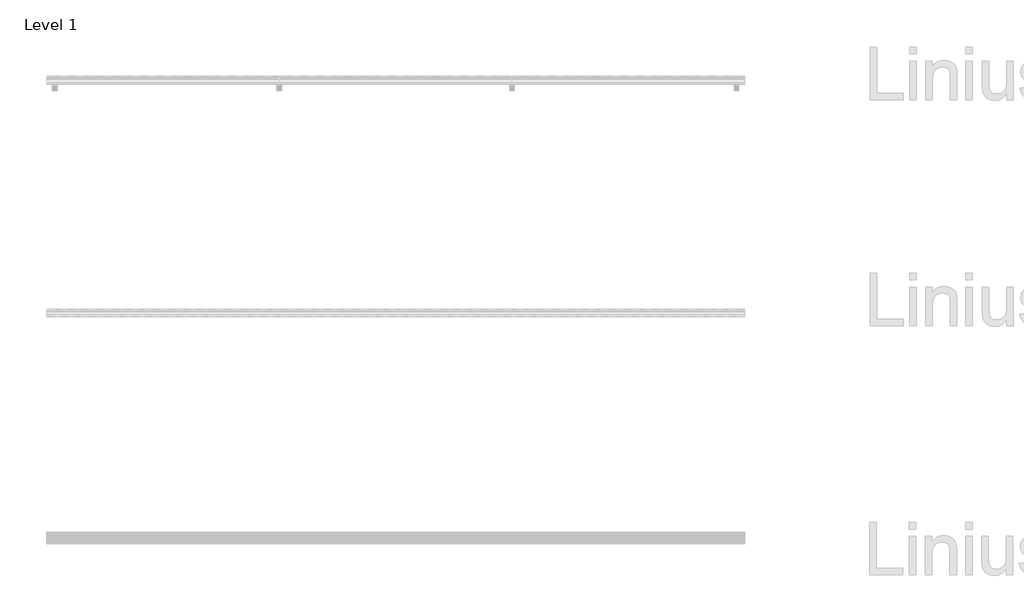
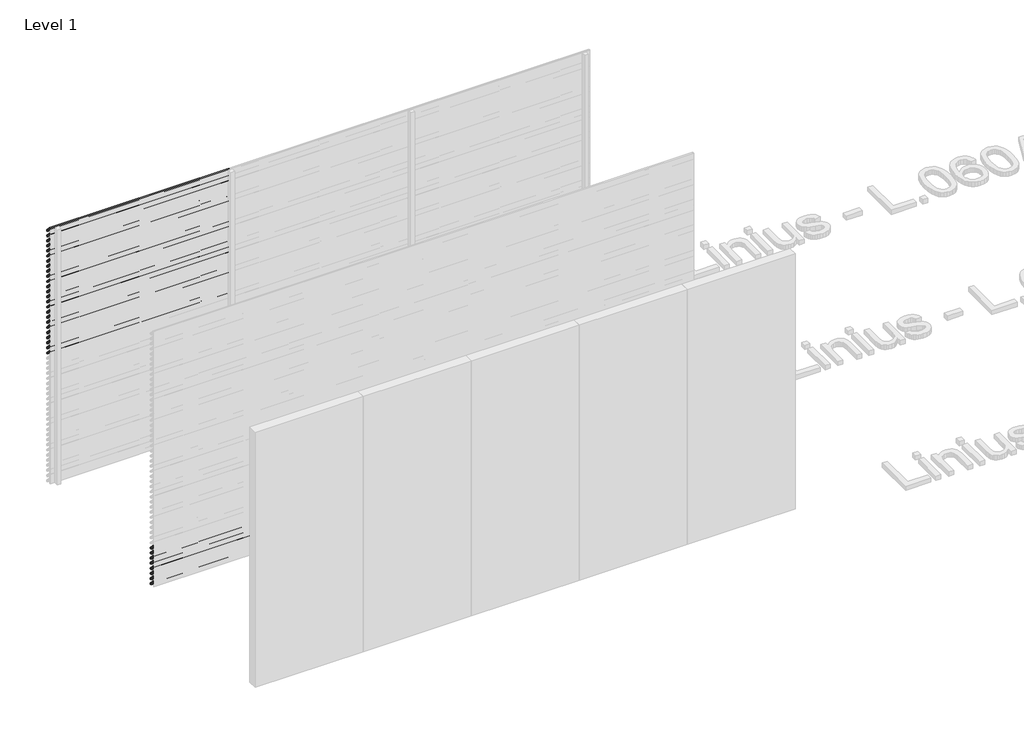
# One storey, part 91 of 153: 33 proxies.
"""IFC4 building model written with IfcOpenShell, lengths in millimetres."""

from ifc_helpers import new_model, si_unit, point, frame, frame_2d, origin, place, context, project, spatial, polyline, circle_curve, trimmed, segment, composite_curve, outline, extrude, element, save

model = new_model("IFC4")

# Units and contexts
model_context = context("Model", 3, world=origin())
ifc_project = project(units=[si_unit("LENGTHUNIT", "METRE", prefix="MILLI")], contexts=[model_context])

# Site, building, storey
site = spatial("IfcSite", under=ifc_project)
building = spatial("IfcBuilding", under=site)
storey = spatial("IfcBuildingStorey", under=building, Name="Level 1", Elevation=0.0)

# Proxies
placement = place(None, origin())
element("IfcBuildingElementProxy", 1, Name="Wall Sweeps", at=placement, inside=storey, context=model_context, shape_type="SweptSolid", body=[
    extrude(outline(composite_curve([segment(polyline([(36485.0540136, 3000.0), (36499.874191, 2998.7034025), (36549.0540136, 2945.0102749), (36549.0540136, 2933.6108187)]), True, "CONTINUOUS"), segment(trimmed(circle_curve(frame_2d((36545.7883652, 2933.897153)), 3.2781774), [point((36549.0540136, 2933.6108187))], [point((36546.4639442, 2930.6893438))], False, "CARTESIAN"), True, "CONTINUOUS"), segment(polyline([(36546.4639442, 2930.6893438), (36534.1895723, 2931.6282758), (36485.0540136, 2985.2730773), (36485.0540136, 3000.0)]), True, "CONTINUOUS")], self_intersect=False), holes=[composite_curve([segment(polyline([(36499.1621773, 2997.2599659), (36486.5540136, 2998.3630372), (36486.5540136, 2985.856213), (36534.8952036, 2933.0786805), (36546.3312542, 2932.2038762)]), True, "CONTINUOUS"), segment(trimmed(circle_curve(frame_2d((36545.7883652, 2933.897153)), 1.7781774), [point((36546.3312542, 2932.2038762))], [point((36547.5540136, 2933.6864389))], True, "CARTESIAN"), True, "CONTINUOUS"), segment(polyline([(36547.5540136, 2933.6864389), (36547.5540136, 2944.4271392), (36499.1621773, 2997.2599659)]), True, "CONTINUOUS")], self_intersect=False)]), frame((44966.6208097, 0.0, 0.0), z_axis=(1.0, 0.0, 0.0), x_axis=(0.0, 1.0, 0.0)), (0.0, 0.0, 1.0), 2000.0000001),
])
element("IfcBuildingElementProxy", 2, Name="Wall Sweeps", at=placement, inside=storey, context=model_context, shape_type="SweptSolid", body=[
    extrude(outline(composite_curve([segment(polyline([(36485.0540136, 2940.0), (36499.874191, 2938.7034025), (36549.0540136, 2885.0102749), (36549.0540136, 2873.6108187)]), True, "CONTINUOUS"), segment(trimmed(circle_curve(frame_2d((36545.7883652, 2873.897153)), 3.2781774), [point((36549.0540136, 2873.6108187))], [point((36546.4639442, 2870.6893438))], False, "CARTESIAN"), True, "CONTINUOUS"), segment(polyline([(36546.4639442, 2870.6893438), (36534.1895723, 2871.6282758), (36485.0540136, 2925.2730773), (36485.0540136, 2940.0)]), True, "CONTINUOUS")], self_intersect=False), holes=[composite_curve([segment(polyline([(36499.1621773, 2937.2599659), (36486.5540136, 2938.3630372), (36486.5540136, 2925.856213), (36534.8952036, 2873.0786805), (36546.3312542, 2872.2038762)]), True, "CONTINUOUS"), segment(trimmed(circle_curve(frame_2d((36545.7883652, 2873.897153)), 1.7781774), [point((36546.3312542, 2872.2038762))], [point((36547.5540136, 2873.6864389))], True, "CARTESIAN"), True, "CONTINUOUS"), segment(polyline([(36547.5540136, 2873.6864389), (36547.5540136, 2884.4271392), (36499.1621773, 2937.2599659)]), True, "CONTINUOUS")], self_intersect=False)]), frame((44966.6208097, 0.0, 0.0), z_axis=(1.0, 0.0, 0.0), x_axis=(0.0, 1.0, 0.0)), (0.0, 0.0, 1.0), 2000.0000001),
])
element("IfcBuildingElementProxy", 3, Name="Wall Sweeps", at=placement, inside=storey, context=model_context, shape_type="SweptSolid", body=[
    extrude(outline(composite_curve([segment(polyline([(36485.0540136, 2880.0), (36499.874191, 2878.7034025), (36549.0540136, 2825.0102749), (36549.0540136, 2813.6108187)]), True, "CONTINUOUS"), segment(trimmed(circle_curve(frame_2d((36545.7883652, 2813.897153)), 3.2781774), [point((36549.0540136, 2813.6108187))], [point((36546.4639442, 2810.6893438))], False, "CARTESIAN"), True, "CONTINUOUS"), segment(polyline([(36546.4639442, 2810.6893438), (36534.1895723, 2811.6282758), (36485.0540136, 2865.2730773), (36485.0540136, 2880.0)]), True, "CONTINUOUS")], self_intersect=False), holes=[composite_curve([segment(polyline([(36499.1621773, 2877.2599659), (36486.5540136, 2878.3630372), (36486.5540136, 2865.856213), (36534.8952036, 2813.0786805), (36546.3312542, 2812.2038762)]), True, "CONTINUOUS"), segment(trimmed(circle_curve(frame_2d((36545.7883652, 2813.897153)), 1.7781774), [point((36546.3312542, 2812.2038762))], [point((36547.5540136, 2813.6864389))], True, "CARTESIAN"), True, "CONTINUOUS"), segment(polyline([(36547.5540136, 2813.6864389), (36547.5540136, 2824.4271392), (36499.1621773, 2877.2599659)]), True, "CONTINUOUS")], self_intersect=False)]), frame((44966.6208097, 0.0, 0.0), z_axis=(1.0, 0.0, 0.0), x_axis=(0.0, 1.0, 0.0)), (0.0, 0.0, 1.0), 2000.0000001),
])
element("IfcBuildingElementProxy", 4, Name="Wall Sweeps", at=placement, inside=storey, context=model_context, shape_type="SweptSolid", body=[
    extrude(outline(composite_curve([segment(polyline([(36485.0540136, 2820.0), (36499.874191, 2818.7034025), (36549.0540136, 2765.0102749), (36549.0540136, 2753.6108187)]), True, "CONTINUOUS"), segment(trimmed(circle_curve(frame_2d((36545.7883652, 2753.897153)), 3.2781774), [point((36549.0540136, 2753.6108187))], [point((36546.4639442, 2750.6893438))], False, "CARTESIAN"), True, "CONTINUOUS"), segment(polyline([(36546.4639442, 2750.6893438), (36534.1895723, 2751.6282758), (36485.0540136, 2805.2730773), (36485.0540136, 2820.0)]), True, "CONTINUOUS")], self_intersect=False), holes=[composite_curve([segment(polyline([(36499.1621773, 2817.2599659), (36486.5540136, 2818.3630372), (36486.5540136, 2805.856213), (36534.8952036, 2753.0786805), (36546.3312542, 2752.2038762)]), True, "CONTINUOUS"), segment(trimmed(circle_curve(frame_2d((36545.7883652, 2753.897153)), 1.7781774), [point((36546.3312542, 2752.2038762))], [point((36547.5540136, 2753.6864389))], True, "CARTESIAN"), True, "CONTINUOUS"), segment(polyline([(36547.5540136, 2753.6864389), (36547.5540136, 2764.4271392), (36499.1621773, 2817.2599659)]), True, "CONTINUOUS")], self_intersect=False)]), frame((44966.6208097, 0.0, 0.0), z_axis=(1.0, 0.0, 0.0), x_axis=(0.0, 1.0, 0.0)), (0.0, 0.0, 1.0), 2000.0000001),
])
element("IfcBuildingElementProxy", 5, Name="Wall Sweeps", at=placement, inside=storey, context=model_context, shape_type="SweptSolid", body=[
    extrude(outline(composite_curve([segment(polyline([(36485.0540136, 2760.0), (36499.874191, 2758.7034025), (36549.0540136, 2705.0102749), (36549.0540136, 2693.6108187)]), True, "CONTINUOUS"), segment(trimmed(circle_curve(frame_2d((36545.7883652, 2693.897153)), 3.2781774), [point((36549.0540136, 2693.6108187))], [point((36546.4639442, 2690.6893438))], False, "CARTESIAN"), True, "CONTINUOUS"), segment(polyline([(36546.4639442, 2690.6893438), (36534.1895723, 2691.6282758), (36485.0540136, 2745.2730773), (36485.0540136, 2760.0)]), True, "CONTINUOUS")], self_intersect=False), holes=[composite_curve([segment(polyline([(36499.1621773, 2757.2599659), (36486.5540136, 2758.3630372), (36486.5540136, 2745.856213), (36534.8952036, 2693.0786805), (36546.3312542, 2692.2038762)]), True, "CONTINUOUS"), segment(trimmed(circle_curve(frame_2d((36545.7883652, 2693.897153)), 1.7781774), [point((36546.3312542, 2692.2038762))], [point((36547.5540136, 2693.6864389))], True, "CARTESIAN"), True, "CONTINUOUS"), segment(polyline([(36547.5540136, 2693.6864389), (36547.5540136, 2704.4271392), (36499.1621773, 2757.2599659)]), True, "CONTINUOUS")], self_intersect=False)]), frame((44966.6208097, 0.0, 0.0), z_axis=(1.0, 0.0, 0.0), x_axis=(0.0, 1.0, 0.0)), (0.0, 0.0, 1.0), 2000.0000001),
])
element("IfcBuildingElementProxy", 6, Name="Wall Sweeps", at=placement, inside=storey, context=model_context, shape_type="SweptSolid", body=[
    extrude(outline(composite_curve([segment(polyline([(36485.0540136, 2700.0), (36499.874191, 2698.7034025), (36549.0540136, 2645.0102749), (36549.0540136, 2633.6108187)]), True, "CONTINUOUS"), segment(trimmed(circle_curve(frame_2d((36545.7883652, 2633.897153)), 3.2781774), [point((36549.0540136, 2633.6108187))], [point((36546.4639442, 2630.6893438))], False, "CARTESIAN"), True, "CONTINUOUS"), segment(polyline([(36546.4639442, 2630.6893438), (36534.1895723, 2631.6282758), (36485.0540136, 2685.2730773), (36485.0540136, 2700.0)]), True, "CONTINUOUS")], self_intersect=False), holes=[composite_curve([segment(polyline([(36499.1621773, 2697.2599659), (36486.5540136, 2698.3630372), (36486.5540136, 2685.856213), (36534.8952036, 2633.0786805), (36546.3312542, 2632.2038762)]), True, "CONTINUOUS"), segment(trimmed(circle_curve(frame_2d((36545.7883652, 2633.897153)), 1.7781774), [point((36546.3312542, 2632.2038762))], [point((36547.5540136, 2633.6864389))], True, "CARTESIAN"), True, "CONTINUOUS"), segment(polyline([(36547.5540136, 2633.6864389), (36547.5540136, 2644.4271392), (36499.1621773, 2697.2599659)]), True, "CONTINUOUS")], self_intersect=False)]), frame((44966.6208097, 0.0, 0.0), z_axis=(1.0, 0.0, 0.0), x_axis=(0.0, 1.0, 0.0)), (0.0, 0.0, 1.0), 2000.0000001),
])
element("IfcBuildingElementProxy", 7, Name="Wall Sweeps", at=placement, inside=storey, context=model_context, shape_type="SweptSolid", body=[
    extrude(outline(composite_curve([segment(polyline([(36485.0540136, 2640.0), (36499.874191, 2638.7034025), (36549.0540136, 2585.0102749), (36549.0540136, 2573.6108187)]), True, "CONTINUOUS"), segment(trimmed(circle_curve(frame_2d((36545.7883652, 2573.897153)), 3.2781774), [point((36549.0540136, 2573.6108187))], [point((36546.4639442, 2570.6893438))], False, "CARTESIAN"), True, "CONTINUOUS"), segment(polyline([(36546.4639442, 2570.6893438), (36534.1895723, 2571.6282758), (36485.0540136, 2625.2730773), (36485.0540136, 2640.0)]), True, "CONTINUOUS")], self_intersect=False), holes=[composite_curve([segment(polyline([(36499.1621773, 2637.2599659), (36486.5540136, 2638.3630372), (36486.5540136, 2625.856213), (36534.8952036, 2573.0786805), (36546.3312542, 2572.2038762)]), True, "CONTINUOUS"), segment(trimmed(circle_curve(frame_2d((36545.7883652, 2573.897153)), 1.7781774), [point((36546.3312542, 2572.2038762))], [point((36547.5540136, 2573.6864389))], True, "CARTESIAN"), True, "CONTINUOUS"), segment(polyline([(36547.5540136, 2573.6864389), (36547.5540136, 2584.4271392), (36499.1621773, 2637.2599659)]), True, "CONTINUOUS")], self_intersect=False)]), frame((44966.6208097, 0.0, 0.0), z_axis=(1.0, 0.0, 0.0), x_axis=(0.0, 1.0, 0.0)), (0.0, 0.0, 1.0), 2000.0000001),
])
element("IfcBuildingElementProxy", 8, Name="Wall Sweeps", at=placement, inside=storey, context=model_context, shape_type="SweptSolid", body=[
    extrude(outline(composite_curve([segment(polyline([(36485.0540136, 2580.0), (36499.874191, 2578.7034025), (36549.0540136, 2525.0102749), (36549.0540136, 2513.6108187)]), True, "CONTINUOUS"), segment(trimmed(circle_curve(frame_2d((36545.7883652, 2513.897153)), 3.2781774), [point((36549.0540136, 2513.6108187))], [point((36546.4639442, 2510.6893438))], False, "CARTESIAN"), True, "CONTINUOUS"), segment(polyline([(36546.4639442, 2510.6893438), (36534.1895723, 2511.6282758), (36485.0540136, 2565.2730773), (36485.0540136, 2580.0)]), True, "CONTINUOUS")], self_intersect=False), holes=[composite_curve([segment(polyline([(36499.1621773, 2577.2599659), (36486.5540136, 2578.3630372), (36486.5540136, 2565.856213), (36534.8952036, 2513.0786805), (36546.3312542, 2512.2038762)]), True, "CONTINUOUS"), segment(trimmed(circle_curve(frame_2d((36545.7883652, 2513.897153)), 1.7781774), [point((36546.3312542, 2512.2038762))], [point((36547.5540136, 2513.6864389))], True, "CARTESIAN"), True, "CONTINUOUS"), segment(polyline([(36547.5540136, 2513.6864389), (36547.5540136, 2524.4271392), (36499.1621773, 2577.2599659)]), True, "CONTINUOUS")], self_intersect=False)]), frame((44966.6208097, 0.0, 0.0), z_axis=(1.0, 0.0, 0.0), x_axis=(0.0, 1.0, 0.0)), (0.0, 0.0, 1.0), 2000.0000001),
])
element("IfcBuildingElementProxy", 9, Name="Wall Sweeps", at=placement, inside=storey, context=model_context, shape_type="SweptSolid", body=[
    extrude(outline(composite_curve([segment(polyline([(36485.0540136, 2520.0), (36499.874191, 2518.7034025), (36549.0540136, 2465.0102749), (36549.0540136, 2453.6108187)]), True, "CONTINUOUS"), segment(trimmed(circle_curve(frame_2d((36545.7883652, 2453.897153)), 3.2781774), [point((36549.0540136, 2453.6108187))], [point((36546.4639442, 2450.6893438))], False, "CARTESIAN"), True, "CONTINUOUS"), segment(polyline([(36546.4639442, 2450.6893438), (36534.1895723, 2451.6282758), (36485.0540136, 2505.2730773), (36485.0540136, 2520.0)]), True, "CONTINUOUS")], self_intersect=False), holes=[composite_curve([segment(polyline([(36499.1621773, 2517.2599659), (36486.5540136, 2518.3630372), (36486.5540136, 2505.856213), (36534.8952036, 2453.0786805), (36546.3312542, 2452.2038762)]), True, "CONTINUOUS"), segment(trimmed(circle_curve(frame_2d((36545.7883652, 2453.897153)), 1.7781774), [point((36546.3312542, 2452.2038762))], [point((36547.5540136, 2453.6864389))], True, "CARTESIAN"), True, "CONTINUOUS"), segment(polyline([(36547.5540136, 2453.6864389), (36547.5540136, 2464.4271392), (36499.1621773, 2517.2599659)]), True, "CONTINUOUS")], self_intersect=False)]), frame((44966.6208097, 0.0, 0.0), z_axis=(1.0, 0.0, 0.0), x_axis=(0.0, 1.0, 0.0)), (0.0, 0.0, 1.0), 2000.0000001),
])
element("IfcBuildingElementProxy", 10, Name="Wall Sweeps", at=placement, inside=storey, context=model_context, shape_type="SweptSolid", body=[
    extrude(outline(composite_curve([segment(polyline([(36485.0540136, 2460.0), (36499.874191, 2458.7034025), (36549.0540136, 2405.0102749), (36549.0540136, 2393.6108187)]), True, "CONTINUOUS"), segment(trimmed(circle_curve(frame_2d((36545.7883652, 2393.897153)), 3.2781774), [point((36549.0540136, 2393.6108187))], [point((36546.4639442, 2390.6893438))], False, "CARTESIAN"), True, "CONTINUOUS"), segment(polyline([(36546.4639442, 2390.6893438), (36534.1895723, 2391.6282758), (36485.0540136, 2445.2730773), (36485.0540136, 2460.0)]), True, "CONTINUOUS")], self_intersect=False), holes=[composite_curve([segment(polyline([(36499.1621773, 2457.2599659), (36486.5540136, 2458.3630372), (36486.5540136, 2445.856213), (36534.8952036, 2393.0786805), (36546.3312542, 2392.2038762)]), True, "CONTINUOUS"), segment(trimmed(circle_curve(frame_2d((36545.7883652, 2393.897153)), 1.7781774), [point((36546.3312542, 2392.2038762))], [point((36547.5540136, 2393.6864389))], True, "CARTESIAN"), True, "CONTINUOUS"), segment(polyline([(36547.5540136, 2393.6864389), (36547.5540136, 2404.4271392), (36499.1621773, 2457.2599659)]), True, "CONTINUOUS")], self_intersect=False)]), frame((44966.6208097, 0.0, 0.0), z_axis=(1.0, 0.0, 0.0), x_axis=(0.0, 1.0, 0.0)), (0.0, 0.0, 1.0), 2000.0000001),
])
element("IfcBuildingElementProxy", 11, Name="Wall Sweeps", at=placement, inside=storey, context=model_context, shape_type="SweptSolid", body=[
    extrude(outline(composite_curve([segment(polyline([(36485.0540136, 2400.0), (36499.874191, 2398.7034025), (36549.0540136, 2345.0102749), (36549.0540136, 2333.6108187)]), True, "CONTINUOUS"), segment(trimmed(circle_curve(frame_2d((36545.7883652, 2333.897153)), 3.2781774), [point((36549.0540136, 2333.6108187))], [point((36546.4639442, 2330.6893438))], False, "CARTESIAN"), True, "CONTINUOUS"), segment(polyline([(36546.4639442, 2330.6893438), (36534.1895723, 2331.6282758), (36485.0540136, 2385.2730773), (36485.0540136, 2400.0)]), True, "CONTINUOUS")], self_intersect=False), holes=[composite_curve([segment(polyline([(36499.1621773, 2397.2599659), (36486.5540136, 2398.3630372), (36486.5540136, 2385.856213), (36534.8952036, 2333.0786805), (36546.3312542, 2332.2038762)]), True, "CONTINUOUS"), segment(trimmed(circle_curve(frame_2d((36545.7883652, 2333.897153)), 1.7781774), [point((36546.3312542, 2332.2038762))], [point((36547.5540136, 2333.6864389))], True, "CARTESIAN"), True, "CONTINUOUS"), segment(polyline([(36547.5540136, 2333.6864389), (36547.5540136, 2344.4271392), (36499.1621773, 2397.2599659)]), True, "CONTINUOUS")], self_intersect=False)]), frame((44966.6208097, 0.0, 0.0), z_axis=(1.0, 0.0, 0.0), x_axis=(0.0, 1.0, 0.0)), (0.0, 0.0, 1.0), 2000.0000001),
])
element("IfcBuildingElementProxy", 12, Name="Wall Sweeps", at=placement, inside=storey, context=model_context, shape_type="SweptSolid", body=[
    extrude(outline(composite_curve([segment(polyline([(36485.0540136, 2340.0), (36499.874191, 2338.7034025), (36549.0540136, 2285.0102749), (36549.0540136, 2273.6108187)]), True, "CONTINUOUS"), segment(trimmed(circle_curve(frame_2d((36545.7883652, 2273.897153)), 3.2781774), [point((36549.0540136, 2273.6108187))], [point((36546.4639442, 2270.6893438))], False, "CARTESIAN"), True, "CONTINUOUS"), segment(polyline([(36546.4639442, 2270.6893438), (36534.1895723, 2271.6282758), (36485.0540136, 2325.2730773), (36485.0540136, 2340.0)]), True, "CONTINUOUS")], self_intersect=False), holes=[composite_curve([segment(polyline([(36499.1621773, 2337.2599659), (36486.5540136, 2338.3630372), (36486.5540136, 2325.856213), (36534.8952036, 2273.0786805), (36546.3312542, 2272.2038762)]), True, "CONTINUOUS"), segment(trimmed(circle_curve(frame_2d((36545.7883652, 2273.897153)), 1.7781774), [point((36546.3312542, 2272.2038762))], [point((36547.5540136, 2273.6864389))], True, "CARTESIAN"), True, "CONTINUOUS"), segment(polyline([(36547.5540136, 2273.6864389), (36547.5540136, 2284.4271392), (36499.1621773, 2337.2599659)]), True, "CONTINUOUS")], self_intersect=False)]), frame((44966.6208097, 0.0, 0.0), z_axis=(1.0, 0.0, 0.0), x_axis=(0.0, 1.0, 0.0)), (0.0, 0.0, 1.0), 2000.0000001),
])
element("IfcBuildingElementProxy", 13, Name="Wall Sweeps", at=placement, inside=storey, context=model_context, shape_type="SweptSolid", body=[
    extrude(outline(composite_curve([segment(polyline([(36485.0540136, 2280.0), (36499.874191, 2278.7034025), (36549.0540136, 2225.0102749), (36549.0540136, 2213.6108187)]), True, "CONTINUOUS"), segment(trimmed(circle_curve(frame_2d((36545.7883652, 2213.897153)), 3.2781774), [point((36549.0540136, 2213.6108187))], [point((36546.4639442, 2210.6893438))], False, "CARTESIAN"), True, "CONTINUOUS"), segment(polyline([(36546.4639442, 2210.6893438), (36534.1895723, 2211.6282758), (36485.0540136, 2265.2730773), (36485.0540136, 2280.0)]), True, "CONTINUOUS")], self_intersect=False), holes=[composite_curve([segment(polyline([(36499.1621773, 2277.2599659), (36486.5540136, 2278.3630372), (36486.5540136, 2265.856213), (36534.8952036, 2213.0786805), (36546.3312542, 2212.2038762)]), True, "CONTINUOUS"), segment(trimmed(circle_curve(frame_2d((36545.7883652, 2213.897153)), 1.7781774), [point((36546.3312542, 2212.2038762))], [point((36547.5540136, 2213.6864389))], True, "CARTESIAN"), True, "CONTINUOUS"), segment(polyline([(36547.5540136, 2213.6864389), (36547.5540136, 2224.4271392), (36499.1621773, 2277.2599659)]), True, "CONTINUOUS")], self_intersect=False)]), frame((44966.6208097, 0.0, 0.0), z_axis=(1.0, 0.0, 0.0), x_axis=(0.0, 1.0, 0.0)), (0.0, 0.0, 1.0), 2000.0000001),
])
element("IfcBuildingElementProxy", 14, Name="Wall Sweeps", at=placement, inside=storey, context=model_context, shape_type="SweptSolid", body=[
    extrude(outline(composite_curve([segment(polyline([(36485.0540136, 2220.0), (36499.874191, 2218.7034025), (36549.0540136, 2165.0102749), (36549.0540136, 2153.6108187)]), True, "CONTINUOUS"), segment(trimmed(circle_curve(frame_2d((36545.7883652, 2153.897153)), 3.2781774), [point((36549.0540136, 2153.6108187))], [point((36546.4639442, 2150.6893438))], False, "CARTESIAN"), True, "CONTINUOUS"), segment(polyline([(36546.4639442, 2150.6893438), (36534.1895723, 2151.6282758), (36485.0540136, 2205.2730773), (36485.0540136, 2220.0)]), True, "CONTINUOUS")], self_intersect=False), holes=[composite_curve([segment(polyline([(36499.1621773, 2217.2599659), (36486.5540136, 2218.3630372), (36486.5540136, 2205.856213), (36534.8952036, 2153.0786805), (36546.3312542, 2152.2038762)]), True, "CONTINUOUS"), segment(trimmed(circle_curve(frame_2d((36545.7883652, 2153.897153)), 1.7781774), [point((36546.3312542, 2152.2038762))], [point((36547.5540136, 2153.6864389))], True, "CARTESIAN"), True, "CONTINUOUS"), segment(polyline([(36547.5540136, 2153.6864389), (36547.5540136, 2164.4271392), (36499.1621773, 2217.2599659)]), True, "CONTINUOUS")], self_intersect=False)]), frame((44966.6208097, 0.0, 0.0), z_axis=(1.0, 0.0, 0.0), x_axis=(0.0, 1.0, 0.0)), (0.0, 0.0, 1.0), 2000.0000001),
])
element("IfcBuildingElementProxy", 15, Name="Wall Sweeps", at=placement, inside=storey, context=model_context, shape_type="SweptSolid", body=[
    extrude(outline(composite_curve([segment(polyline([(36485.0540136, 2160.0), (36499.874191, 2158.7034025), (36549.0540136, 2105.0102749), (36549.0540136, 2093.6108187)]), True, "CONTINUOUS"), segment(trimmed(circle_curve(frame_2d((36545.7883652, 2093.897153)), 3.2781774), [point((36549.0540136, 2093.6108187))], [point((36546.4639442, 2090.6893438))], False, "CARTESIAN"), True, "CONTINUOUS"), segment(polyline([(36546.4639442, 2090.6893438), (36534.1895723, 2091.6282758), (36485.0540136, 2145.2730773), (36485.0540136, 2160.0)]), True, "CONTINUOUS")], self_intersect=False), holes=[composite_curve([segment(polyline([(36499.1621773, 2157.2599659), (36486.5540136, 2158.3630372), (36486.5540136, 2145.856213), (36534.8952036, 2093.0786805), (36546.3312542, 2092.2038762)]), True, "CONTINUOUS"), segment(trimmed(circle_curve(frame_2d((36545.7883652, 2093.897153)), 1.7781774), [point((36546.3312542, 2092.2038762))], [point((36547.5540136, 2093.6864389))], True, "CARTESIAN"), True, "CONTINUOUS"), segment(polyline([(36547.5540136, 2093.6864389), (36547.5540136, 2104.4271392), (36499.1621773, 2157.2599659)]), True, "CONTINUOUS")], self_intersect=False)]), frame((44966.6208097, 0.0, 0.0), z_axis=(1.0, 0.0, 0.0), x_axis=(0.0, 1.0, 0.0)), (0.0, 0.0, 1.0), 2000.0000001),
])
element("IfcBuildingElementProxy", 16, Name="Wall Sweeps", at=placement, inside=storey, context=model_context, shape_type="SweptSolid", body=[
    extrude(outline(composite_curve([segment(polyline([(36485.0540136, 2100.0), (36499.874191, 2098.7034025), (36549.0540136, 2045.0102749), (36549.0540136, 2033.6108187)]), True, "CONTINUOUS"), segment(trimmed(circle_curve(frame_2d((36545.7883652, 2033.897153)), 3.2781774), [point((36549.0540136, 2033.6108187))], [point((36546.4639442, 2030.6893438))], False, "CARTESIAN"), True, "CONTINUOUS"), segment(polyline([(36546.4639442, 2030.6893438), (36534.1895723, 2031.6282758), (36485.0540136, 2085.2730773), (36485.0540136, 2100.0)]), True, "CONTINUOUS")], self_intersect=False), holes=[composite_curve([segment(polyline([(36499.1621773, 2097.2599659), (36486.5540136, 2098.3630372), (36486.5540136, 2085.856213), (36534.8952036, 2033.0786805), (36546.3312542, 2032.2038762)]), True, "CONTINUOUS"), segment(trimmed(circle_curve(frame_2d((36545.7883652, 2033.897153)), 1.7781774), [point((36546.3312542, 2032.2038762))], [point((36547.5540136, 2033.6864389))], True, "CARTESIAN"), True, "CONTINUOUS"), segment(polyline([(36547.5540136, 2033.6864389), (36547.5540136, 2044.4271392), (36499.1621773, 2097.2599659)]), True, "CONTINUOUS")], self_intersect=False)]), frame((44966.6208097, 0.0, 0.0), z_axis=(1.0, 0.0, 0.0), x_axis=(0.0, 1.0, 0.0)), (0.0, 0.0, 1.0), 2000.0000001),
])
element("IfcBuildingElementProxy", 17, Name="Wall Sweeps", at=placement, inside=storey, context=model_context, shape_type="SweptSolid", body=[
    extrude(outline(composite_curve([segment(polyline([(36485.0540136, 2040.0), (36499.874191, 2038.7034025), (36549.0540136, 1985.0102749), (36549.0540136, 1973.6108187)]), True, "CONTINUOUS"), segment(trimmed(circle_curve(frame_2d((36545.7883652, 1973.897153)), 3.2781774), [point((36549.0540136, 1973.6108187))], [point((36546.4639442, 1970.6893438))], False, "CARTESIAN"), True, "CONTINUOUS"), segment(polyline([(36546.4639442, 1970.6893438), (36534.1895723, 1971.6282758), (36485.0540136, 2025.2730773), (36485.0540136, 2040.0)]), True, "CONTINUOUS")], self_intersect=False), holes=[composite_curve([segment(polyline([(36499.1621773, 2037.2599659), (36486.5540136, 2038.3630372), (36486.5540136, 2025.856213), (36534.8952036, 1973.0786805), (36546.3312542, 1972.2038762)]), True, "CONTINUOUS"), segment(trimmed(circle_curve(frame_2d((36545.7883652, 1973.897153)), 1.7781774), [point((36546.3312542, 1972.2038762))], [point((36547.5540136, 1973.6864389))], True, "CARTESIAN"), True, "CONTINUOUS"), segment(polyline([(36547.5540136, 1973.6864389), (36547.5540136, 1984.4271392), (36499.1621773, 2037.2599659)]), True, "CONTINUOUS")], self_intersect=False)]), frame((44966.6208097, 0.0, 0.0), z_axis=(1.0, 0.0, 0.0), x_axis=(0.0, 1.0, 0.0)), (0.0, 0.0, 1.0), 2000.0000001),
])
element("IfcBuildingElementProxy", 18, Name="Wall Sweeps", at=placement, inside=storey, context=model_context, shape_type="SweptSolid", body=[
    extrude(outline(composite_curve([segment(polyline([(36485.0540136, 1980.0), (36499.874191, 1978.7034025), (36549.0540136, 1925.0102749), (36549.0540136, 1913.6108187)]), True, "CONTINUOUS"), segment(trimmed(circle_curve(frame_2d((36545.7883652, 1913.897153)), 3.2781774), [point((36549.0540136, 1913.6108187))], [point((36546.4639442, 1910.6893438))], False, "CARTESIAN"), True, "CONTINUOUS"), segment(polyline([(36546.4639442, 1910.6893438), (36534.1895723, 1911.6282758), (36485.0540136, 1965.2730773), (36485.0540136, 1980.0)]), True, "CONTINUOUS")], self_intersect=False), holes=[composite_curve([segment(polyline([(36499.1621773, 1977.2599659), (36486.5540136, 1978.3630372), (36486.5540136, 1965.856213), (36534.8952036, 1913.0786805), (36546.3312542, 1912.2038762)]), True, "CONTINUOUS"), segment(trimmed(circle_curve(frame_2d((36545.7883652, 1913.897153)), 1.7781774), [point((36546.3312542, 1912.2038762))], [point((36547.5540136, 1913.6864389))], True, "CARTESIAN"), True, "CONTINUOUS"), segment(polyline([(36547.5540136, 1913.6864389), (36547.5540136, 1924.4271392), (36499.1621773, 1977.2599659)]), True, "CONTINUOUS")], self_intersect=False)]), frame((44966.6208097, 0.0, 0.0), z_axis=(1.0, 0.0, 0.0), x_axis=(0.0, 1.0, 0.0)), (0.0, 0.0, 1.0), 2000.0000001),
])
element("IfcBuildingElementProxy", 19, Name="Wall Sweeps", at=placement, inside=storey, context=model_context, shape_type="SweptSolid", body=[
    extrude(outline(composite_curve([segment(polyline([(36485.0540136, 1920.0), (36499.874191, 1918.7034025), (36549.0540136, 1865.0102749), (36549.0540136, 1853.6108187)]), True, "CONTINUOUS"), segment(trimmed(circle_curve(frame_2d((36545.7883652, 1853.897153)), 3.2781774), [point((36549.0540136, 1853.6108187))], [point((36546.4639442, 1850.6893438))], False, "CARTESIAN"), True, "CONTINUOUS"), segment(polyline([(36546.4639442, 1850.6893438), (36534.1895723, 1851.6282758), (36485.0540136, 1905.2730773), (36485.0540136, 1920.0)]), True, "CONTINUOUS")], self_intersect=False), holes=[composite_curve([segment(polyline([(36499.1621773, 1917.2599659), (36486.5540136, 1918.3630372), (36486.5540136, 1905.856213), (36534.8952036, 1853.0786805), (36546.3312542, 1852.2038762)]), True, "CONTINUOUS"), segment(trimmed(circle_curve(frame_2d((36545.7883652, 1853.897153)), 1.7781774), [point((36546.3312542, 1852.2038762))], [point((36547.5540136, 1853.6864389))], True, "CARTESIAN"), True, "CONTINUOUS"), segment(polyline([(36547.5540136, 1853.6864389), (36547.5540136, 1864.4271392), (36499.1621773, 1917.2599659)]), True, "CONTINUOUS")], self_intersect=False)]), frame((44966.6208097, 0.0, 0.0), z_axis=(1.0, 0.0, 0.0), x_axis=(0.0, 1.0, 0.0)), (0.0, 0.0, 1.0), 2000.0000001),
])
element("IfcBuildingElementProxy", 20, Name="Wall Sweeps", at=placement, inside=storey, context=model_context, shape_type="SweptSolid", body=[
    extrude(outline(composite_curve([segment(polyline([(36485.0540136, 1860.0), (36499.874191, 1858.7034025), (36549.0540136, 1805.0102749), (36549.0540136, 1793.6108187)]), True, "CONTINUOUS"), segment(trimmed(circle_curve(frame_2d((36545.7883652, 1793.897153)), 3.2781774), [point((36549.0540136, 1793.6108187))], [point((36546.4639442, 1790.6893438))], False, "CARTESIAN"), True, "CONTINUOUS"), segment(polyline([(36546.4639442, 1790.6893438), (36534.1895723, 1791.6282758), (36485.0540136, 1845.2730773), (36485.0540136, 1860.0)]), True, "CONTINUOUS")], self_intersect=False), holes=[composite_curve([segment(polyline([(36499.1621773, 1857.2599659), (36486.5540136, 1858.3630372), (36486.5540136, 1845.856213), (36534.8952036, 1793.0786805), (36546.3312542, 1792.2038762)]), True, "CONTINUOUS"), segment(trimmed(circle_curve(frame_2d((36545.7883652, 1793.897153)), 1.7781774), [point((36546.3312542, 1792.2038762))], [point((36547.5540136, 1793.6864389))], True, "CARTESIAN"), True, "CONTINUOUS"), segment(polyline([(36547.5540136, 1793.6864389), (36547.5540136, 1804.4271392), (36499.1621773, 1857.2599659)]), True, "CONTINUOUS")], self_intersect=False)]), frame((44966.6208097, 0.0, 0.0), z_axis=(1.0, 0.0, 0.0), x_axis=(0.0, 1.0, 0.0)), (0.0, 0.0, 1.0), 2000.0000001),
])
element("IfcBuildingElementProxy", 21, Name="Wall Sweeps", at=placement, inside=storey, context=model_context, shape_type="SweptSolid", body=[
    extrude(outline(composite_curve([segment(polyline([(36485.0540136, 1800.0), (36499.874191, 1798.7034025), (36549.0540136, 1745.0102749), (36549.0540136, 1733.6108187)]), True, "CONTINUOUS"), segment(trimmed(circle_curve(frame_2d((36545.7883652, 1733.897153)), 3.2781774), [point((36549.0540136, 1733.6108187))], [point((36546.4639442, 1730.6893438))], False, "CARTESIAN"), True, "CONTINUOUS"), segment(polyline([(36546.4639442, 1730.6893438), (36534.1895723, 1731.6282758), (36485.0540136, 1785.2730773), (36485.0540136, 1800.0)]), True, "CONTINUOUS")], self_intersect=False), holes=[composite_curve([segment(polyline([(36499.1621773, 1797.2599659), (36486.5540136, 1798.3630372), (36486.5540136, 1785.856213), (36534.8952036, 1733.0786805), (36546.3312542, 1732.2038762)]), True, "CONTINUOUS"), segment(trimmed(circle_curve(frame_2d((36545.7883652, 1733.897153)), 1.7781774), [point((36546.3312542, 1732.2038762))], [point((36547.5540136, 1733.6864389))], True, "CARTESIAN"), True, "CONTINUOUS"), segment(polyline([(36547.5540136, 1733.6864389), (36547.5540136, 1744.4271392), (36499.1621773, 1797.2599659)]), True, "CONTINUOUS")], self_intersect=False)]), frame((44966.6208097, 0.0, 0.0), z_axis=(1.0, 0.0, 0.0), x_axis=(0.0, 1.0, 0.0)), (0.0, 0.0, 1.0), 2000.0000001),
])
element("IfcBuildingElementProxy", 22, Name="Wall Sweeps", at=placement, inside=storey, context=model_context, shape_type="SweptSolid", body=[
    extrude(outline(composite_curve([segment(polyline([(36485.0540136, 1740.0), (36499.874191, 1738.7034025), (36549.0540136, 1685.0102749), (36549.0540136, 1673.6108187)]), True, "CONTINUOUS"), segment(trimmed(circle_curve(frame_2d((36545.7883652, 1673.897153)), 3.2781774), [point((36549.0540136, 1673.6108187))], [point((36546.4639442, 1670.6893438))], False, "CARTESIAN"), True, "CONTINUOUS"), segment(polyline([(36546.4639442, 1670.6893438), (36534.1895723, 1671.6282758), (36485.0540136, 1725.2730773), (36485.0540136, 1740.0)]), True, "CONTINUOUS")], self_intersect=False), holes=[composite_curve([segment(polyline([(36499.1621773, 1737.2599659), (36486.5540136, 1738.3630372), (36486.5540136, 1725.856213), (36534.8952036, 1673.0786805), (36546.3312542, 1672.2038762)]), True, "CONTINUOUS"), segment(trimmed(circle_curve(frame_2d((36545.7883652, 1673.897153)), 1.7781774), [point((36546.3312542, 1672.2038762))], [point((36547.5540136, 1673.6864389))], True, "CARTESIAN"), True, "CONTINUOUS"), segment(polyline([(36547.5540136, 1673.6864389), (36547.5540136, 1684.4271392), (36499.1621773, 1737.2599659)]), True, "CONTINUOUS")], self_intersect=False)]), frame((44966.6208097, 0.0, 0.0), z_axis=(1.0, 0.0, 0.0), x_axis=(0.0, 1.0, 0.0)), (0.0, 0.0, 1.0), 2000.0000001),
])
element("IfcBuildingElementProxy", 23, Name="Wall Sweeps", at=placement, inside=storey, context=model_context, shape_type="SweptSolid", body=[
    extrude(outline(composite_curve([segment(polyline([(36485.0540136, 1680.0), (36499.874191, 1678.7034025), (36549.0540136, 1625.0102749), (36549.0540136, 1613.6108187)]), True, "CONTINUOUS"), segment(trimmed(circle_curve(frame_2d((36545.7883652, 1613.897153)), 3.2781774), [point((36549.0540136, 1613.6108187))], [point((36546.4639442, 1610.6893438))], False, "CARTESIAN"), True, "CONTINUOUS"), segment(polyline([(36546.4639442, 1610.6893438), (36534.1895723, 1611.6282758), (36485.0540136, 1665.2730773), (36485.0540136, 1680.0)]), True, "CONTINUOUS")], self_intersect=False), holes=[composite_curve([segment(polyline([(36499.1621773, 1677.2599659), (36486.5540136, 1678.3630372), (36486.5540136, 1665.856213), (36534.8952036, 1613.0786805), (36546.3312542, 1612.2038762)]), True, "CONTINUOUS"), segment(trimmed(circle_curve(frame_2d((36545.7883652, 1613.897153)), 1.7781774), [point((36546.3312542, 1612.2038762))], [point((36547.5540136, 1613.6864389))], True, "CARTESIAN"), True, "CONTINUOUS"), segment(polyline([(36547.5540136, 1613.6864389), (36547.5540136, 1624.4271392), (36499.1621773, 1677.2599659)]), True, "CONTINUOUS")], self_intersect=False)]), frame((44966.6208097, 0.0, 0.0), z_axis=(1.0, 0.0, 0.0), x_axis=(0.0, 1.0, 0.0)), (0.0, 0.0, 1.0), 2000.0000001),
])
element("IfcBuildingElementProxy", 24, Name="Wall Sweeps", at=placement, inside=storey, context=model_context, shape_type="SweptSolid", body=[
    extrude(outline(composite_curve([segment(polyline([(36485.0540136, 1620.0), (36499.874191, 1618.7034025), (36549.0540136, 1565.0102749), (36549.0540136, 1553.6108187)]), True, "CONTINUOUS"), segment(trimmed(circle_curve(frame_2d((36545.7883652, 1553.897153)), 3.2781774), [point((36549.0540136, 1553.6108187))], [point((36546.4639442, 1550.6893438))], False, "CARTESIAN"), True, "CONTINUOUS"), segment(polyline([(36546.4639442, 1550.6893438), (36534.1895723, 1551.6282758), (36485.0540136, 1605.2730773), (36485.0540136, 1620.0)]), True, "CONTINUOUS")], self_intersect=False), holes=[composite_curve([segment(polyline([(36499.1621773, 1617.2599659), (36486.5540136, 1618.3630372), (36486.5540136, 1605.856213), (36534.8952036, 1553.0786805), (36546.3312542, 1552.2038762)]), True, "CONTINUOUS"), segment(trimmed(circle_curve(frame_2d((36545.7883652, 1553.897153)), 1.7781774), [point((36546.3312542, 1552.2038762))], [point((36547.5540136, 1553.6864389))], True, "CARTESIAN"), True, "CONTINUOUS"), segment(polyline([(36547.5540136, 1553.6864389), (36547.5540136, 1564.4271392), (36499.1621773, 1617.2599659)]), True, "CONTINUOUS")], self_intersect=False)]), frame((44966.6208097, 0.0, 0.0), z_axis=(1.0, 0.0, 0.0), x_axis=(0.0, 1.0, 0.0)), (0.0, 0.0, 1.0), 2000.0000001),
])
element("IfcBuildingElementProxy", 25, Name="Wall Sweeps", at=placement, inside=storey, context=model_context, shape_type="SweptSolid", body=[
    extrude(outline(composite_curve([segment(polyline([(36485.0540136, 1560.0), (36499.874191, 1558.7034025), (36549.0540136, 1505.0102749), (36549.0540136, 1493.6108187)]), True, "CONTINUOUS"), segment(trimmed(circle_curve(frame_2d((36545.7883652, 1493.897153)), 3.2781774), [point((36549.0540136, 1493.6108187))], [point((36546.4639442, 1490.6893438))], False, "CARTESIAN"), True, "CONTINUOUS"), segment(polyline([(36546.4639442, 1490.6893438), (36534.1895723, 1491.6282758), (36485.0540136, 1545.2730773), (36485.0540136, 1560.0)]), True, "CONTINUOUS")], self_intersect=False), holes=[composite_curve([segment(polyline([(36499.1621773, 1557.2599659), (36486.5540136, 1558.3630372), (36486.5540136, 1545.856213), (36534.8952036, 1493.0786805), (36546.3312542, 1492.2038762)]), True, "CONTINUOUS"), segment(trimmed(circle_curve(frame_2d((36545.7883652, 1493.897153)), 1.7781774), [point((36546.3312542, 1492.2038762))], [point((36547.5540136, 1493.6864389))], True, "CARTESIAN"), True, "CONTINUOUS"), segment(polyline([(36547.5540136, 1493.6864389), (36547.5540136, 1504.4271392), (36499.1621773, 1557.2599659)]), True, "CONTINUOUS")], self_intersect=False)]), frame((44966.6208097, 0.0, 0.0), z_axis=(1.0, 0.0, 0.0), x_axis=(0.0, 1.0, 0.0)), (0.0, 0.0, 1.0), 2000.0000001),
])
element("IfcBuildingElementProxy", 26, Name="Wall Sweeps", at=placement, inside=storey, context=model_context, shape_type="SweptSolid", body=[
    extrude(outline(composite_curve([segment(polyline([(34485.0540136, 480.0), (34499.874191, 478.7034025), (34549.0540136, 425.0102749), (34549.0540136, 413.6108187)]), True, "CONTINUOUS"), segment(trimmed(circle_curve(frame_2d((34545.7883652, 413.897153)), 3.2781774), [point((34549.0540136, 413.6108187))], [point((34546.4639442, 410.6893438))], False, "CARTESIAN"), True, "CONTINUOUS"), segment(polyline([(34546.4639442, 410.6893438), (34534.1895723, 411.6282758), (34485.0540136, 465.2730773), (34485.0540136, 480.0)]), True, "CONTINUOUS")], self_intersect=False), holes=[composite_curve([segment(polyline([(34499.1621773, 477.2599659), (34486.5540136, 478.3630372), (34486.5540136, 465.856213), (34534.8952036, 413.0786805), (34546.3312542, 412.2038762)]), True, "CONTINUOUS"), segment(trimmed(circle_curve(frame_2d((34545.7883652, 413.897153)), 1.7781774), [point((34546.3312542, 412.2038762))], [point((34547.5540136, 413.6864389))], True, "CARTESIAN"), True, "CONTINUOUS"), segment(polyline([(34547.5540136, 413.6864389), (34547.5540136, 424.4271392), (34499.1621773, 477.2599659)]), True, "CONTINUOUS")], self_intersect=False)]), frame((44966.6208097, 0.0, 0.0), z_axis=(1.0, 0.0, 0.0), x_axis=(0.0, 1.0, 0.0)), (0.0, 0.0, 1.0), 6000.0),
])
element("IfcBuildingElementProxy", 27, Name="Wall Sweeps", at=placement, inside=storey, context=model_context, shape_type="SweptSolid", body=[
    extrude(outline(composite_curve([segment(polyline([(34485.0540136, 420.0), (34499.874191, 418.7034025), (34549.0540136, 365.0102749), (34549.0540136, 353.6108187)]), True, "CONTINUOUS"), segment(trimmed(circle_curve(frame_2d((34545.7883652, 353.897153)), 3.2781774), [point((34549.0540136, 353.6108187))], [point((34546.4639442, 350.6893438))], False, "CARTESIAN"), True, "CONTINUOUS"), segment(polyline([(34546.4639442, 350.6893438), (34534.1895723, 351.6282758), (34485.0540136, 405.2730773), (34485.0540136, 420.0)]), True, "CONTINUOUS")], self_intersect=False), holes=[composite_curve([segment(polyline([(34499.1621773, 417.2599659), (34486.5540136, 418.3630372), (34486.5540136, 405.856213), (34534.8952036, 353.0786805), (34546.3312542, 352.2038762)]), True, "CONTINUOUS"), segment(trimmed(circle_curve(frame_2d((34545.7883652, 353.897153)), 1.7781774), [point((34546.3312542, 352.2038762))], [point((34547.5540136, 353.6864389))], True, "CARTESIAN"), True, "CONTINUOUS"), segment(polyline([(34547.5540136, 353.6864389), (34547.5540136, 364.4271392), (34499.1621773, 417.2599659)]), True, "CONTINUOUS")], self_intersect=False)]), frame((44966.6208097, 0.0, 0.0), z_axis=(1.0, 0.0, 0.0), x_axis=(0.0, 1.0, 0.0)), (0.0, 0.0, 1.0), 6000.0),
])
element("IfcBuildingElementProxy", 28, Name="Wall Sweeps", at=placement, inside=storey, context=model_context, shape_type="SweptSolid", body=[
    extrude(outline(composite_curve([segment(polyline([(34485.0540136, 360.0), (34499.874191, 358.7034025), (34549.0540136, 305.0102749), (34549.0540136, 293.6108187)]), True, "CONTINUOUS"), segment(trimmed(circle_curve(frame_2d((34545.7883652, 293.897153)), 3.2781774), [point((34549.0540136, 293.6108187))], [point((34546.4639442, 290.6893438))], False, "CARTESIAN"), True, "CONTINUOUS"), segment(polyline([(34546.4639442, 290.6893438), (34534.1895723, 291.6282758), (34485.0540136, 345.2730773), (34485.0540136, 360.0)]), True, "CONTINUOUS")], self_intersect=False), holes=[composite_curve([segment(polyline([(34499.1621773, 357.2599659), (34486.5540136, 358.3630372), (34486.5540136, 345.856213), (34534.8952036, 293.0786805), (34546.3312542, 292.2038762)]), True, "CONTINUOUS"), segment(trimmed(circle_curve(frame_2d((34545.7883652, 293.897153)), 1.7781774), [point((34546.3312542, 292.2038762))], [point((34547.5540136, 293.6864389))], True, "CARTESIAN"), True, "CONTINUOUS"), segment(polyline([(34547.5540136, 293.6864389), (34547.5540136, 304.4271392), (34499.1621773, 357.2599659)]), True, "CONTINUOUS")], self_intersect=False)]), frame((44966.6208097, 0.0, 0.0), z_axis=(1.0, 0.0, 0.0), x_axis=(0.0, 1.0, 0.0)), (0.0, 0.0, 1.0), 6000.0),
])
element("IfcBuildingElementProxy", 29, Name="Wall Sweeps", at=placement, inside=storey, context=model_context, shape_type="SweptSolid", body=[
    extrude(outline(composite_curve([segment(polyline([(34485.0540136, 300.0), (34499.874191, 298.7034025), (34549.0540136, 245.0102749), (34549.0540136, 233.6108187)]), True, "CONTINUOUS"), segment(trimmed(circle_curve(frame_2d((34545.7883652, 233.897153)), 3.2781774), [point((34549.0540136, 233.6108187))], [point((34546.4639442, 230.6893438))], False, "CARTESIAN"), True, "CONTINUOUS"), segment(polyline([(34546.4639442, 230.6893438), (34534.1895723, 231.6282758), (34485.0540136, 285.2730773), (34485.0540136, 300.0)]), True, "CONTINUOUS")], self_intersect=False), holes=[composite_curve([segment(polyline([(34499.1621773, 297.2599659), (34486.5540136, 298.3630372), (34486.5540136, 285.856213), (34534.8952036, 233.0786805), (34546.3312542, 232.2038762)]), True, "CONTINUOUS"), segment(trimmed(circle_curve(frame_2d((34545.7883652, 233.897153)), 1.7781774), [point((34546.3312542, 232.2038762))], [point((34547.5540136, 233.6864389))], True, "CARTESIAN"), True, "CONTINUOUS"), segment(polyline([(34547.5540136, 233.6864389), (34547.5540136, 244.4271392), (34499.1621773, 297.2599659)]), True, "CONTINUOUS")], self_intersect=False)]), frame((44966.6208097, 0.0, 0.0), z_axis=(1.0, 0.0, 0.0), x_axis=(0.0, 1.0, 0.0)), (0.0, 0.0, 1.0), 6000.0),
])
element("IfcBuildingElementProxy", 30, Name="Wall Sweeps", at=placement, inside=storey, context=model_context, shape_type="SweptSolid", body=[
    extrude(outline(composite_curve([segment(polyline([(34485.0540136, 240.0), (34499.874191, 238.7034025), (34549.0540136, 185.0102749), (34549.0540136, 173.6108187)]), True, "CONTINUOUS"), segment(trimmed(circle_curve(frame_2d((34545.7883652, 173.897153)), 3.2781774), [point((34549.0540136, 173.6108187))], [point((34546.4639442, 170.6893438))], False, "CARTESIAN"), True, "CONTINUOUS"), segment(polyline([(34546.4639442, 170.6893438), (34534.1895723, 171.6282758), (34485.0540136, 225.2730773), (34485.0540136, 240.0)]), True, "CONTINUOUS")], self_intersect=False), holes=[composite_curve([segment(polyline([(34499.1621773, 237.2599659), (34486.5540136, 238.3630372), (34486.5540136, 225.856213), (34534.8952036, 173.0786805), (34546.3312542, 172.2038762)]), True, "CONTINUOUS"), segment(trimmed(circle_curve(frame_2d((34545.7883652, 173.897153)), 1.7781774), [point((34546.3312542, 172.2038762))], [point((34547.5540136, 173.6864389))], True, "CARTESIAN"), True, "CONTINUOUS"), segment(polyline([(34547.5540136, 173.6864389), (34547.5540136, 184.4271392), (34499.1621773, 237.2599659)]), True, "CONTINUOUS")], self_intersect=False)]), frame((44966.6208097, 0.0, 0.0), z_axis=(1.0, 0.0, 0.0), x_axis=(0.0, 1.0, 0.0)), (0.0, 0.0, 1.0), 6000.0),
])
element("IfcBuildingElementProxy", 31, Name="Wall Sweeps", at=placement, inside=storey, context=model_context, shape_type="SweptSolid", body=[
    extrude(outline(composite_curve([segment(polyline([(34485.0540136, 180.0), (34499.874191, 178.7034025), (34549.0540136, 125.0102749), (34549.0540136, 113.6108187)]), True, "CONTINUOUS"), segment(trimmed(circle_curve(frame_2d((34545.7883652, 113.897153)), 3.2781774), [point((34549.0540136, 113.6108187))], [point((34546.4639442, 110.6893438))], False, "CARTESIAN"), True, "CONTINUOUS"), segment(polyline([(34546.4639442, 110.6893438), (34534.1895723, 111.6282758), (34485.0540136, 165.2730773), (34485.0540136, 180.0)]), True, "CONTINUOUS")], self_intersect=False), holes=[composite_curve([segment(polyline([(34499.1621773, 177.2599659), (34486.5540136, 178.3630372), (34486.5540136, 165.856213), (34534.8952036, 113.0786805), (34546.3312542, 112.2038762)]), True, "CONTINUOUS"), segment(trimmed(circle_curve(frame_2d((34545.7883652, 113.897153)), 1.7781774), [point((34546.3312542, 112.2038762))], [point((34547.5540136, 113.6864389))], True, "CARTESIAN"), True, "CONTINUOUS"), segment(polyline([(34547.5540136, 113.6864389), (34547.5540136, 124.4271392), (34499.1621773, 177.2599659)]), True, "CONTINUOUS")], self_intersect=False)]), frame((44966.6208097, 0.0, 0.0), z_axis=(1.0, 0.0, 0.0), x_axis=(0.0, 1.0, 0.0)), (0.0, 0.0, 1.0), 6000.0),
])
element("IfcBuildingElementProxy", 32, Name="Wall Sweeps", at=placement, inside=storey, context=model_context, shape_type="SweptSolid", body=[
    extrude(outline(composite_curve([segment(polyline([(34485.0540136, 120.0), (34499.874191, 118.7034025), (34549.0540136, 65.0102749), (34549.0540136, 53.6108187)]), True, "CONTINUOUS"), segment(trimmed(circle_curve(frame_2d((34545.7883652, 53.897153)), 3.2781774), [point((34549.0540136, 53.6108187))], [point((34546.4639442, 50.6893438))], False, "CARTESIAN"), True, "CONTINUOUS"), segment(polyline([(34546.4639442, 50.6893438), (34534.1895723, 51.6282758), (34485.0540136, 105.2730773), (34485.0540136, 120.0)]), True, "CONTINUOUS")], self_intersect=False), holes=[composite_curve([segment(polyline([(34499.1621773, 117.2599659), (34486.5540136, 118.3630372), (34486.5540136, 105.856213), (34534.8952036, 53.0786805), (34546.3312542, 52.2038762)]), True, "CONTINUOUS"), segment(trimmed(circle_curve(frame_2d((34545.7883652, 53.897153)), 1.7781774), [point((34546.3312542, 52.2038762))], [point((34547.5540136, 53.6864389))], True, "CARTESIAN"), True, "CONTINUOUS"), segment(polyline([(34547.5540136, 53.6864389), (34547.5540136, 64.4271392), (34499.1621773, 117.2599659)]), True, "CONTINUOUS")], self_intersect=False)]), frame((44966.6208097, 0.0, 0.0), z_axis=(1.0, 0.0, 0.0), x_axis=(0.0, 1.0, 0.0)), (0.0, 0.0, 1.0), 6000.0),
])
element("IfcBuildingElementProxy", 33, Name="Wall Sweeps", at=placement, inside=storey, context=model_context, shape_type="SweptSolid", body=[
    extrude(outline(composite_curve([segment(polyline([(34485.0540136, 60.0), (34499.874191, 58.7034025), (34549.0540136, 5.0102749), (34549.0540136, -6.3891813)]), True, "CONTINUOUS"), segment(trimmed(circle_curve(frame_2d((34545.7883652, -6.102847)), 3.2781774), [point((34549.0540136, -6.3891813))], [point((34546.4639442, -9.3106562))], False, "CARTESIAN"), True, "CONTINUOUS"), segment(polyline([(34546.4639442, -9.3106562), (34534.1895723, -8.3717242), (34485.0540136, 45.2730773), (34485.0540136, 60.0)]), True, "CONTINUOUS")], self_intersect=False), holes=[composite_curve([segment(polyline([(34499.1621773, 57.2599659), (34486.5540136, 58.3630372), (34486.5540136, 45.856213), (34534.8952036, -6.9213195), (34546.3312542, -7.7961238)]), True, "CONTINUOUS"), segment(trimmed(circle_curve(frame_2d((34545.7883652, -6.102847)), 1.7781774), [point((34546.3312542, -7.7961238))], [point((34547.5540136, -6.3135611))], True, "CARTESIAN"), True, "CONTINUOUS"), segment(polyline([(34547.5540136, -6.3135611), (34547.5540136, 4.4271392), (34499.1621773, 57.2599659)]), True, "CONTINUOUS")], self_intersect=False)]), frame((44966.6208097, 0.0, 0.0), z_axis=(1.0, 0.0, 0.0), x_axis=(0.0, 1.0, 0.0)), (0.0, 0.0, 1.0), 6000.0),
])

save(model, "model.ifc")
